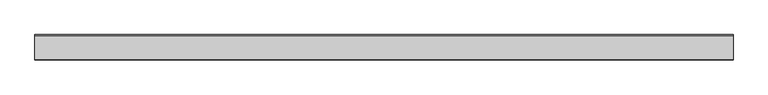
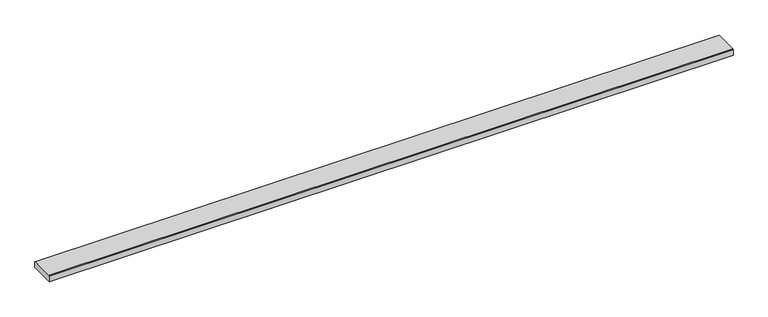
"""IFC4 building model written with IfcOpenShell, lengths in millimetres: proxy geometry."""

import ifcopenshell
import ifcopenshell.guid

model = None  # the IFC model being written
_history = None  # IfcOwnerHistory: only IFC2X3 demands one
_inside = {}  # id of a spatial element -> (the spatial element, [elements in it])
_under = {}  # id of a project, library or spatial element -> (it, [spatial elements below it])
_declared = {}  # id of a project -> (the project, [libraries it declares])
_typed = {}  # id of a type object -> (the type object, [elements of that type])
_made_of = {}  # id of a material, layer set ... -> (it, [elements and type objects made of it])


def new_model(schema):
    """Start an empty IFC model of exactly this schema.

    Asked for "IFC4X3", IfcOpenShell would pick the latest addendum, in which some entities
    have other attributes; the version numbers below select the first issue.
    IFC2X3 requires an IfcOwnerHistory on every rooted entity: one is made here for all.
    """
    global model, _history
    if schema == "IFC4X3":
        model = ifcopenshell.file(schema_version=(4, 3, 0, 0))
    else:
        model = ifcopenshell.file(schema=schema)
    _inside.clear()
    _under.clear()
    _declared.clear()
    _typed.clear()
    _made_of.clear()
    _history = None
    if model.schema == "IFC2X3":
        org = make("IfcOrganization", Name="unknown")
        user = make(
            "IfcPersonAndOrganization",
            ThePerson=make("IfcPerson", FamilyName="unknown"),
            TheOrganization=org,
        )
        app = make(
            "IfcApplication",
            ApplicationDeveloper=org,
            Version="unknown",
            ApplicationFullName="unknown",
            ApplicationIdentifier="unknown",
        )
        _history = make(
            "IfcOwnerHistory",
            OwningUser=user,
            OwningApplication=app,
            ChangeAction="ADDED",
            CreationDate=0,
        )
    return model


def make(cls, **values):
    """One entity of the class cls with the attributes given. An attribute that is None is left unset."""
    return model.create_entity(
        cls, **{name: value for name, value in values.items() if value is not None}
    )


def rooted(cls, **values):
    """An entity with a GlobalId (a new one), such as an element, a storey or a relation."""
    return make(cls, GlobalId=ifcopenshell.guid.new(), OwnerHistory=_history, **values)


def si_unit(unit_type, name, prefix=None):
    """IfcSIUnit, for example si_unit("LENGTHUNIT", "METRE", prefix="MILLI")."""
    return make("IfcSIUnit", UnitType=unit_type, Prefix=prefix, Name=name)


def assignment(units):
    """IfcUnitAssignment: the units of a project."""
    return None if units is None else make("IfcUnitAssignment", Units=units)


def point(xyz):
    """IfcCartesianPoint."""
    return None if xyz is None else make("IfcCartesianPoint", Coordinates=xyz)


def direction(xyz):
    """IfcDirection."""
    return None if xyz is None else make("IfcDirection", DirectionRatios=xyz)


def frame(location, z_axis=None, x_axis=None):
    """IfcAxis2Placement3D, a coordinate frame: its origin and axes. An axis left out is left unset."""
    return make(
        "IfcAxis2Placement3D",
        Location=point(location),
        Axis=direction(z_axis),
        RefDirection=direction(x_axis),
    )


def origin():
    """The frame at (0, 0, 0) with its axes left unset."""
    return frame((0.0, 0.0, 0.0))


def place(relative_to, where):
    """IfcLocalPlacement: puts the frame where relative to a parent placement (None: the world)."""
    return make(
        "IfcLocalPlacement", PlacementRelTo=relative_to, RelativePlacement=where
    )


def context(
    kind, dimensions, precision=None, world=None, true_north=None, identifier=None
):
    """IfcGeometricRepresentationContext, for example the 3D "Model" context."""
    return make(
        "IfcGeometricRepresentationContext",
        ContextIdentifier=identifier,
        ContextType=kind,
        CoordinateSpaceDimension=dimensions,
        Precision=precision,
        WorldCoordinateSystem=world,
        TrueNorth=true_north,
    )


def project(units=None, contexts=None):
    """IfcProject with its units and contexts."""
    return rooted(
        "IfcProject",
        Name="project",
        RepresentationContexts=contexts,
        UnitsInContext=assignment(units),
    )


def spatial(cls, under=None, at=None, **own):
    """A site, building, storey or space (cls), placed at a placement, below another one or the project."""
    s = rooted(cls, ObjectPlacement=at, **own)
    if under is not None:
        _under.setdefault(under.id(), (under, []))[1].append(s)
    return s


def polyline(points):
    """IfcPolyline through the points."""
    return make("IfcPolyline", Points=[point(p) for p in points])


def outline(outer, holes=None, kind="AREA"):
    """IfcArbitraryClosedProfileDef: a profile drawn as a closed curve; with holes, ...WithVoids."""
    if holes is None:
        return make("IfcArbitraryClosedProfileDef", ProfileType=kind, OuterCurve=outer)
    return make(
        "IfcArbitraryProfileDefWithVoids",
        ProfileType=kind,
        OuterCurve=outer,
        InnerCurves=holes,
    )


def extrude(swept, where, along, depth):
    """IfcExtrudedAreaSolid: the profile swept, set in the frame where, extruded along a direction by depth."""
    return make(
        "IfcExtrudedAreaSolid",
        SweptArea=swept,
        Position=where,
        ExtrudedDirection=direction(along),
        Depth=depth,
    )


def shape(context_of_items, identifier, shape_type, items):
    """IfcShapeRepresentation: the items that make up one representation, for example the "Body"."""
    return make(
        "IfcShapeRepresentation",
        ContextOfItems=context_of_items,
        RepresentationIdentifier=identifier,
        RepresentationType=shape_type,
        Items=items,
    )


def source(mapping_origin, context_of_items, identifier, shape_type, items):
    """IfcRepresentationMap: a shape defined once, which mapped items show again and again."""
    return make(
        "IfcRepresentationMap",
        MappingOrigin=mapping_origin,
        MappedRepresentation=shape(context_of_items, identifier, shape_type, items),
    )


def transform(
    local_origin,
    x_axis=None,
    y_axis=None,
    z_axis=None,
    scale=None,
    scale2=None,
    scale3=None,
    uniform=True,
):
    """IfcCartesianTransformationOperator3D, or its non-uniform kind. x_axis, y_axis, z_axis: its Axis1, 2, 3."""
    if uniform:
        return make(
            "IfcCartesianTransformationOperator3D",
            Axis1=direction(x_axis),
            Axis2=direction(y_axis),
            LocalOrigin=point(local_origin),
            Scale=scale,
            Axis3=direction(z_axis),
        )
    return make(
        "IfcCartesianTransformationOperator3DnonUniform",
        Axis1=direction(x_axis),
        Axis2=direction(y_axis),
        LocalOrigin=point(local_origin),
        Scale=scale,
        Axis3=direction(z_axis),
        Scale2=scale2,
        Scale3=scale3,
    )


def mapped(mapping_source, mapping_target):
    """IfcMappedItem: shows the shape of a source again, moved by a transform."""
    return make(
        "IfcMappedItem", MappingSource=mapping_source, MappingTarget=mapping_target
    )


def made_of(thing, what):
    """Note that an element or type object is made of a material, layer set ...; save() writes the relation."""
    if what is not None:
        _made_of.setdefault(what.id(), (what, []))[1].append(thing)
    return thing


def element(
    cls,
    number,
    at=None,
    inside=None,
    cuts=None,
    type_object=None,
    material=None,
    context=None,
    identifier="Body",
    shape_type=None,
    held_by="IfcProductDefinitionShape",
    body=None,
    shapes=None,
    **own,
):
    """One element of the class cls, such as IfcWall. Its Tag is "e" and its number.

    at: its placement. inside: the storey or other place that contains it. cuts: it is an
    opening in that element (IfcRelVoidsElement). A single representation is given by context,
    identifier, shape_type and body (its items); several are given by shapes. held_by: the class
    of the entity that holds the representations. save() writes the other relations.
    """
    e = rooted(cls, Tag="e%d" % number, ObjectPlacement=at, **own)
    if body is not None:
        shapes = [shape(context, identifier, shape_type, body)]
    if shapes is not None:
        e.Representation = make(held_by, Representations=shapes)
    if inside is not None:
        _inside.setdefault(inside.id(), (inside, []))[1].append(e)
    if cuts is not None:
        rooted(
            "IfcRelVoidsElement", RelatingBuildingElement=cuts, RelatedOpeningElement=e
        )
    if type_object is not None:
        _typed.setdefault(type_object.id(), (type_object, []))[1].append(e)
    return made_of(e, material)


def aggregate(whole, parts):
    """IfcRelAggregates: a whole, such as a stair, and the parts it consists of."""
    return rooted("IfcRelAggregates", RelatingObject=whole, RelatedObjects=parts)


def save(model, path):
    """Write the relations noted so far, then the file.

    IfcRelAggregates (storeys below a building ...), IfcRelContainedInSpatialStructure (elements
    in a storey), IfcRelDefinesByType, IfcRelAssociatesMaterial and IfcRelDeclares: one each for
    every whole, place, type object, material and project.
    """
    for whole, parts in _under.values():
        aggregate(whole, parts)
    for where, things in _inside.values():
        rooted(
            "IfcRelContainedInSpatialStructure",
            RelatedElements=things,
            RelatingStructure=where,
        )
    for kind, things in _typed.values():
        rooted("IfcRelDefinesByType", RelatedObjects=things, RelatingType=kind)
    for what, things in _made_of.values():
        rooted("IfcRelAssociatesMaterial", RelatedObjects=things, RelatingMaterial=what)
    for by, libraries in _declared.values():
        rooted("IfcRelDeclares", RelatingContext=by, RelatedDefinitions=libraries)
    model.write(path)


def generic_models_1a0656ff(model_context):
    return source(origin(), model_context, "Body", "SweptSolid", [
        extrude(outline(polyline([(0.0, 20.868936), (2.245064, 23.114), (86.654936, 23.114), (88.9, 20.868936), (88.9, 0.0), (0.0, 0.0), (0.0, 20.868936)])), frame((0.0, 0.0, 0.0), z_axis=(1.0, 0.0, 0.0), x_axis=(0.0, 1.0, 0.0)), (0.0, 0.0, 1.0), 2438.4),
    ])


if __name__ == "__main__":
    model = new_model("IFC4")
    model_context = context("Model", 3, world=origin())
    ifc_project = project(units=[si_unit("LENGTHUNIT", "METRE", prefix="MILLI")], contexts=[model_context])
    site = spatial("IfcSite", under=ifc_project)
    building = spatial("IfcBuilding", under=site)
    placement = place(None, origin())
    generic_models_shape = generic_models_1a0656ff(model_context)
    element("IfcBuildingElementProxy", 1, Name="540 Series Reversible Trim (Fiber) : 540 Series Reversible Trim (Fiber) - 3.5\"", ObjectType="540 Series Reversible Trim (Fiber) : 540 Series Reversible Trim (Fiber) - 3.5\"", at=placement, inside=building, context=model_context, shape_type="MappedRepresentation", body=[
        mapped(generic_models_shape, transform((0.0, 0.0, 0.0), x_axis=(1.0, 0.0, 0.0), y_axis=(0.0, 1.0, 0.0), z_axis=(0.0, 0.0, 1.0))),
    ])
    save(model, "model.ifc")
